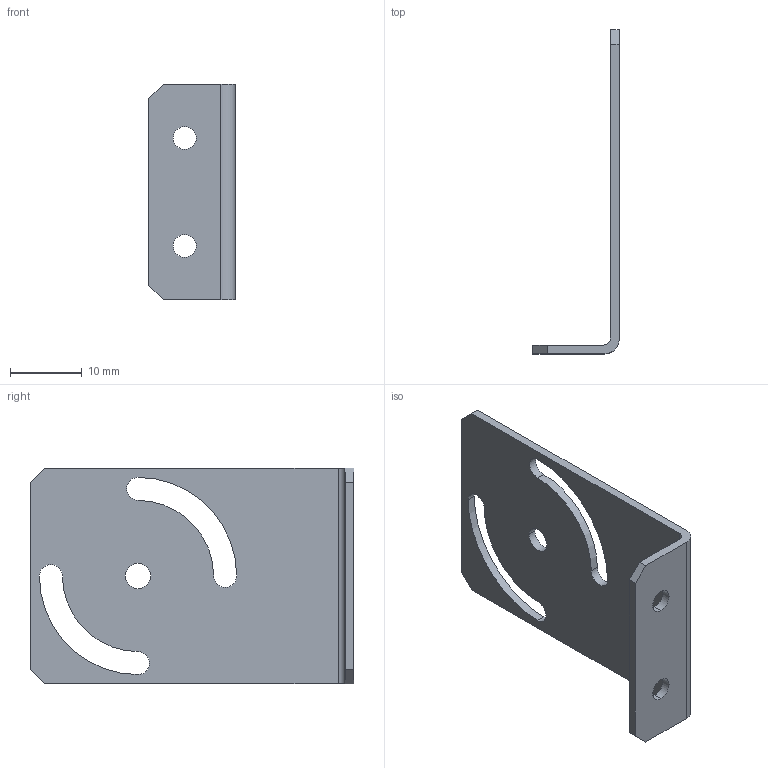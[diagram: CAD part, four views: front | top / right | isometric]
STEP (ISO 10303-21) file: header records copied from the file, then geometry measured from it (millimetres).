
FILE_DESCRIPTION (( 'STEP AP214' ), '1' );
FILE_NAME ('L-BRACKET MLBX LEFT.STEP', '2022-05-11T03:29:15', ( '' ), ( '' ), 'SwSTEP 2.0', 'SolidWorks 2021', '' );
FILE_SCHEMA (( 'AUTOMOTIVE_DESIGN' ));
Length unit declared in the file: millimetre
Products named in the file (1): L-BRACKET MLBX LEFT
Bounding box: 12 x 45 x 30 mm (x, y, z)
Volume: 1783.8 mm3; surface area: 3318.2 mm2
Topology: 1 solids, 1 shells, 29 faces, 81 edges, 54 vertices
Faces by surface type: cylinder 17, plane 12
Entity records: 1003 total; most frequent: DIRECTION 175, CARTESIAN_POINT 165, ORIENTED_EDGE 162, EDGE_CURVE 81, AXIS2_PLACEMENT_3D 64, VERTEX_POINT 54, VECTOR 47, LINE 47
